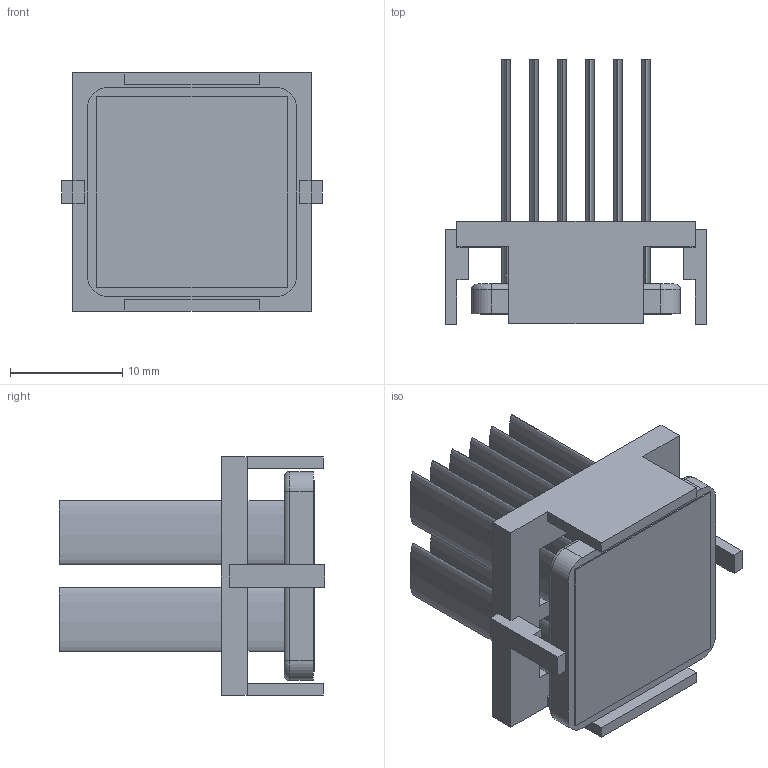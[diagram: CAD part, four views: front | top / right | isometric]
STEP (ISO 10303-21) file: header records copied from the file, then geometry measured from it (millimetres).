
FILE_DESCRIPTION (( 'STEP AP214' ), '1' );
FILE_NAME ('INM19001-23W-2.6O.STEP', '2023-03-02T18:20:07', ( '' ), ( '' ), 'SwSTEP 2.0', 'SolidWorks 2020', '' );
FILE_SCHEMA (( 'AUTOMOTIVE_DESIGN' ));
Length unit declared in the file: millimetre
Products named in the file (1): INM19001-23W-2.6O
Bounding box: 23.2 x 23.6 x 21.2 mm (x, y, z)
Volume: 2581 mm3; surface area: 5634.2 mm2
Topology: 3 solids, 3 shells, 106 faces, 256 edges, 168 vertices
Faces by surface type: plane 70, bspline 24, cylinder 8, torus 4
Entity records: 4330 total; most frequent: CARTESIAN_POINT 843, ORIENTED_EDGE 512, DIRECTION 394, EDGE_CURVE 256, VECTOR 188, LINE 188, VERTEX_POINT 168, EDGE_LOOP 120
